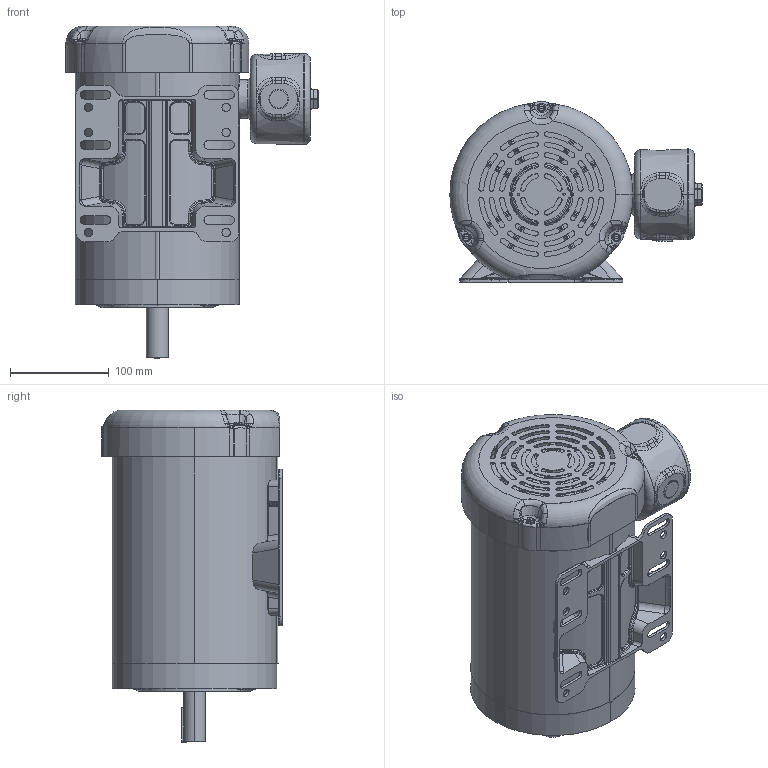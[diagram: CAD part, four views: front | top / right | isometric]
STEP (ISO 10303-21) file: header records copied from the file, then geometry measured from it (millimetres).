
FILE_DESCRIPTION (( 'STEP AP203' ), '1' );
FILE_NAME ('028929-825_Rev0.STEP', '2018-01-05T14:17:06', ( '' ), ( '' ), 'SwSTEP 2.0', 'SolidWorks 2015', '' );
FILE_SCHEMA (( 'CONFIG_CONTROL_DESIGN' ));
Length unit declared in the file: inch
Products named in the file (1): 028929-825_Rev0
Bounding box: 255.71 x 182.88 x 336.49 mm (x, y, z)
Volume: 1029963.3 mm3; surface area: 682040.8 mm2
Topology: 32 solids, 32 shells, 3035 faces, 7293 edges, 4296 vertices
Faces by surface type: cylinder 874, bspline 831, plane 606, torus 370, cone 336, sphere 18
Entity records: 127454 total; most frequent: CARTESIAN_POINT 62832, ORIENTED_EDGE 14350, DIRECTION 12604, EDGE_CURVE 7175, AXIS2_PLACEMENT_3D 5326, VERTEX_POINT 4296, EDGE_LOOP 3295, CIRCLE 3121
